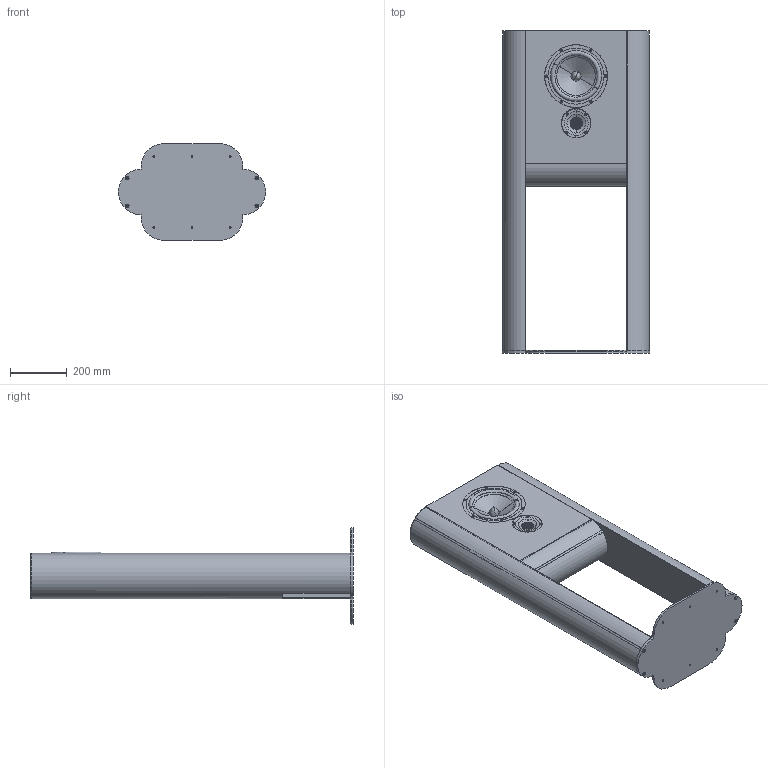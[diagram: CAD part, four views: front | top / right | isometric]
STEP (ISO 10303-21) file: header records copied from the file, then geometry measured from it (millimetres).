
FILE_DESCRIPTION (( 'STEP AP214' ), '1' );
FILE_NAME ('LS1 1130mm outline colour.STEP', '2025-04-23T11:48:17', ( '' ), ( '' ), 'SwSTEP 2.0', 'SolidWorks 2020', '' );
FILE_SCHEMA (( 'AUTOMOTIVE_DESIGN' ));
Length unit declared in the file: millimetre
Products named in the file (1): LS1 1130mm outline colour
Bounding box: 521 x 1141 x 342 mm (x, y, z)
Volume: 14511863.2 mm3; surface area: 4011841.4 mm2
Topology: 32 solids, 32 shells, 2119 faces, 5788 edges, 3736 vertices
Faces by surface type: plane 990, cylinder 700, bspline 245, torus 95, cone 89
Entity records: 86039 total; most frequent: CARTESIAN_POINT 33647, ORIENTED_EDGE 11546, DIRECTION 9668, EDGE_CURVE 5773, VERTEX_POINT 3736, AXIS2_PLACEMENT_3D 3697, EDGE_LOOP 2453, LINE 2274
